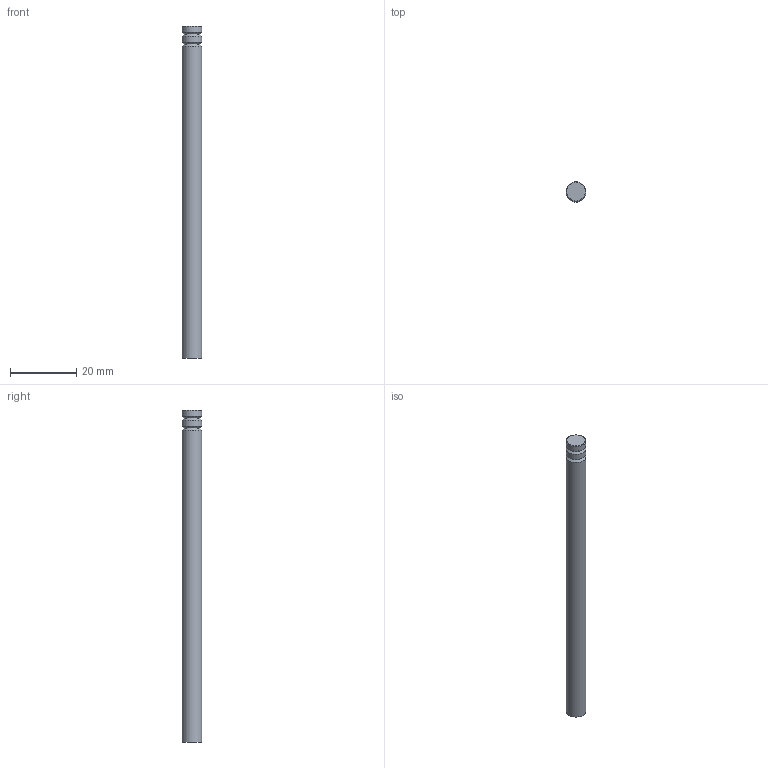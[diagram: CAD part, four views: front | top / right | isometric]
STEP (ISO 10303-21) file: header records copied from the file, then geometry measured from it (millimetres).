
FILE_DESCRIPTION(/* description */ (''),/* implementation_level */ '2;1');
FILE_NAME(/* name */ 'C:\Users\strothej\Documents\ActualDocuments\MicroscopeParts\TwoPhotonSystem\ScanningMechanics\v26\Drawings\Slider_Arm_100mm.stp',/* time_stamp */ '2017-05-19T17:56:59-07:00',/* author */ ('strothej'),/* organization */ (''),/* preprocessor_version */ 'ST-DEVELOPER v16.1',/* originating_system */ 'Autodesk Inventor 2016',/* authorisation */ '');
FILE_SCHEMA (('AUTOMOTIVE_DESIGN { 1 0 10303 214 3 1 1 }'));
Length unit declared in the file: millimetre
Products named in the file (1): Slider_Arm_100mm
Bounding box: 6 x 6 x 100 mm (x, y, z)
Volume: 2789.5 mm3; surface area: 1991 mm2
Topology: 1 solids, 1 shells, 12 faces, 24 edges, 14 vertices
Faces by surface type: cone 6, cylinder 4, plane 2
Full cylindrical faces by diameter (mm): 2.459 x1, 6 x3
Entity records: 258 total; most frequent: DIRECTION 48, CARTESIAN_POINT 35, AXIS2_PLACEMENT_3D 24, EDGE_LOOP 22, ORIENTED_EDGE 22, FACE_OUTER_BOUND 12, ADVANCED_FACE 12, CIRCLE 11
